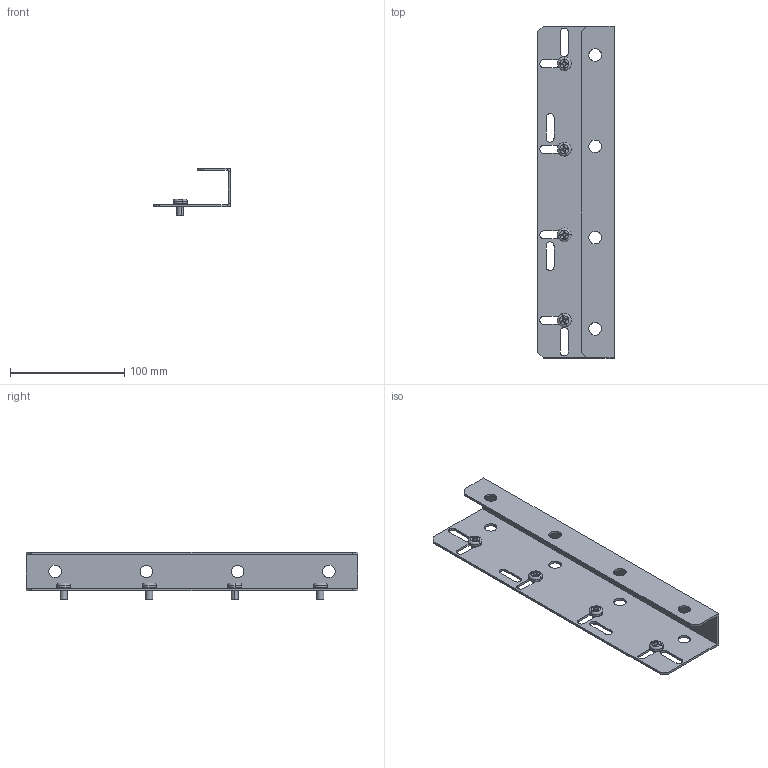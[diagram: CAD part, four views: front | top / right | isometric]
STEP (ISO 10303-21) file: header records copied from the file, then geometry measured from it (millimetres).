
FILE_DESCRIPTION (( 'STEP AP214' ), '1' );
FILE_NAME ('FO-00-SIAB Êîìïëåêò ïëàíêè îïîðíûõ èçîëÿòîðîâ ARMAT ACB òèïîðàçìåð AIIB 3II4P.STEP', '2025-08-04T10:42:49', ( '' ), ( '' ), 'SwSTEP 2.0', 'SolidWorks 2023', '' );
FILE_SCHEMA (( 'AUTOMOTIVE_DESIGN' ));
Length unit declared in the file: millimetre
Products named in the file (3): Винт М6х10 IEK; Комплект планки опорных изоляторов ARMAT ACB типоразмер AIIB 3II4P; FO-00-SIAB Комплект планки опорных изоляторов ARMAT ACB типоразмер AIIB 3II4P
Assembly tree (5 placements, depth 2):
  FO-00-SIAB Комплект планки опорных изоляторов ARMAT ACB типоразмер AIIB 3II4P
    Комплект планки опорных изоляторов ARMAT ACB типоразмер AIIB 3II4P
    Винт М6х10 IEK  x4
Bounding box: 67.5 x 291 x 42 mm (x, y, z)
Volume: 71581.8 mm3; surface area: 74479.8 mm2
Topology: 5 solids, 5 shells, 206 faces, 540 edges, 352 vertices
Faces by surface type: plane 86, cylinder 60, cone 44, torus 16
Entity records: 3865 total; most frequent: DIRECTION 673, CARTESIAN_POINT 668, ORIENTED_EDGE 630, EDGE_CURVE 315, AXIS2_PLACEMENT_3D 245, VERTEX_POINT 208, VECTOR 183, LINE 183
